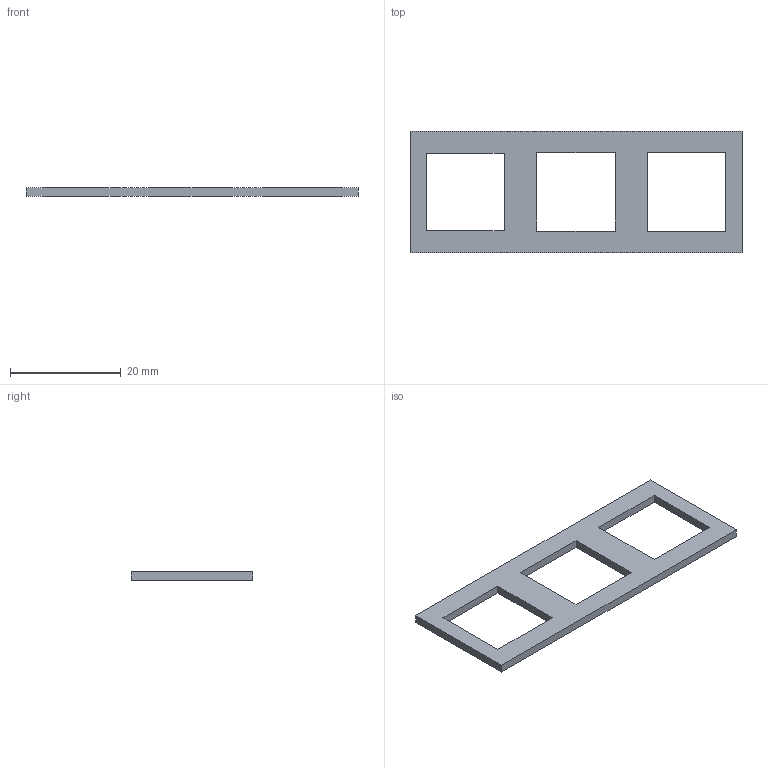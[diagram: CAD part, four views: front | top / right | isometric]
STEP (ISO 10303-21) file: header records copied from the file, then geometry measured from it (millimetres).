
FILE_DESCRIPTION(('Open CASCADE Model'),'2;1');
FILE_NAME('Open CASCADE Shape Model','2026-09-17T20:09:27',('Author'),( 'Open CASCADE'),'Open CASCADE STEP processor 7.7','Open CASCADE 7.7' ,'Unknown');
FILE_SCHEMA(('AUTOMOTIVE_DESIGN { 1 0 10303 214 1 1 1 1 }'));
Length unit declared in the file: millimetre
Products named in the file (1): Open CASCADE STEP translator 7.7 6
Bounding box: 60 x 22 x 1.5 mm (x, y, z)
Volume: 1085.3 mm3; surface area: 1946.9 mm2
Topology: 1 solids, 1 shells, 18 faces, 48 edges, 32 vertices
Faces by surface type: plane 18
Entity records: 1150 total; most frequent: CARTESIAN_POINT 243, DIRECTION 134, ORIENTED_EDGE 96, LINE 96, VECTOR 96, PCURVE 96, DEFINITIONAL_REPRESENTATION 96, EDGE_CURVE 48
